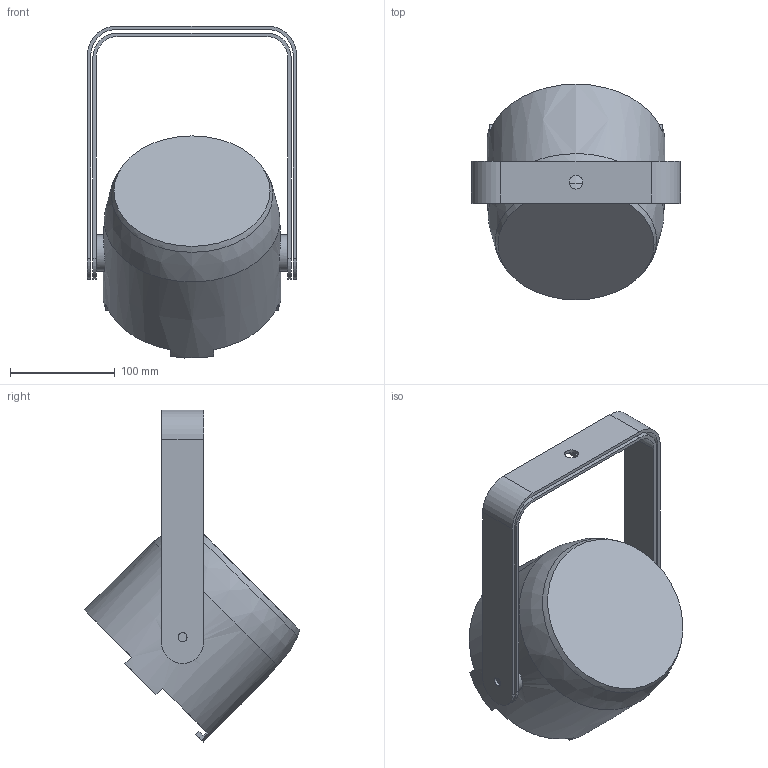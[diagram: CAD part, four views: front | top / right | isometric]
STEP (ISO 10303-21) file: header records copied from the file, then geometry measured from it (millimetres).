
FILE_DESCRIPTION(/* description */ (''),/* implementation_level */ '2;1');
FILE_NAME(/* name */ 'Colordash Par H7XIP_3D__45.stp',/* time_stamp */ '2023-01-11T11:30:54-05:00',/* author */ ('dgooch'),/* organization */ (''),/* preprocessor_version */ 'ST-DEVELOPER v19.2',/* originating_system */ 'Autodesk Inventor 2023',/* authorisation */ '');
FILE_SCHEMA (('AUTOMOTIVE_DESIGN { 1 0 10303 214 3 1 1 }'));
Length unit declared in the file: millimetre
Products named in the file (5): Colordash Par H7XIP; ASM0035_ASM (1); PRT0114 (1); PRT0115 (1); Component75
Assembly tree (4 placements, depth 3):
  Colordash Par H7XIP
    ASM0035_ASM (1)
      PRT0114 (1)
      PRT0115 (1)
    Component75
Bounding box: 199.8 x 206.04 x 317.16 mm (x, y, z)
Volume: 3044169.1 mm3; surface area: 225262.1 mm2
Topology: 3 solids, 3 shells, 66 faces, 173 edges, 116 vertices
Faces by surface type: plane 39, cylinder 24, bspline 3
Full cylindrical faces by diameter (mm): 8.5 x4, 13 x1, 35 x2, 135.213 x1
Entity records: 2537 total; most frequent: CARTESIAN_POINT 660, DIRECTION 370, ORIENTED_EDGE 346, EDGE_CURVE 173, AXIS2_PLACEMENT_3D 134, VERTEX_POINT 116, LINE 102, VECTOR 102
